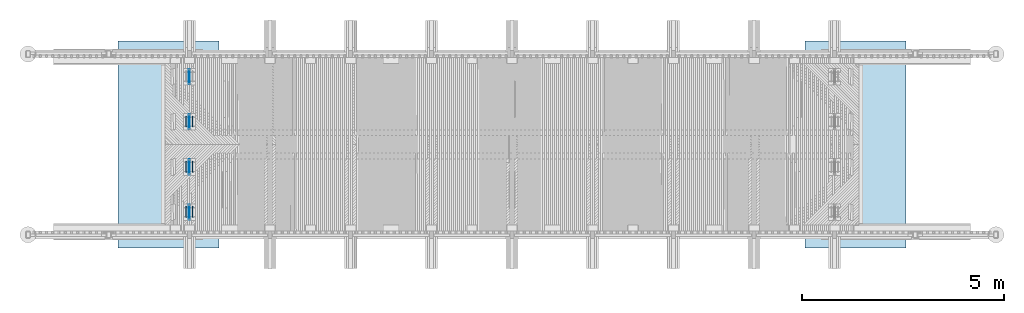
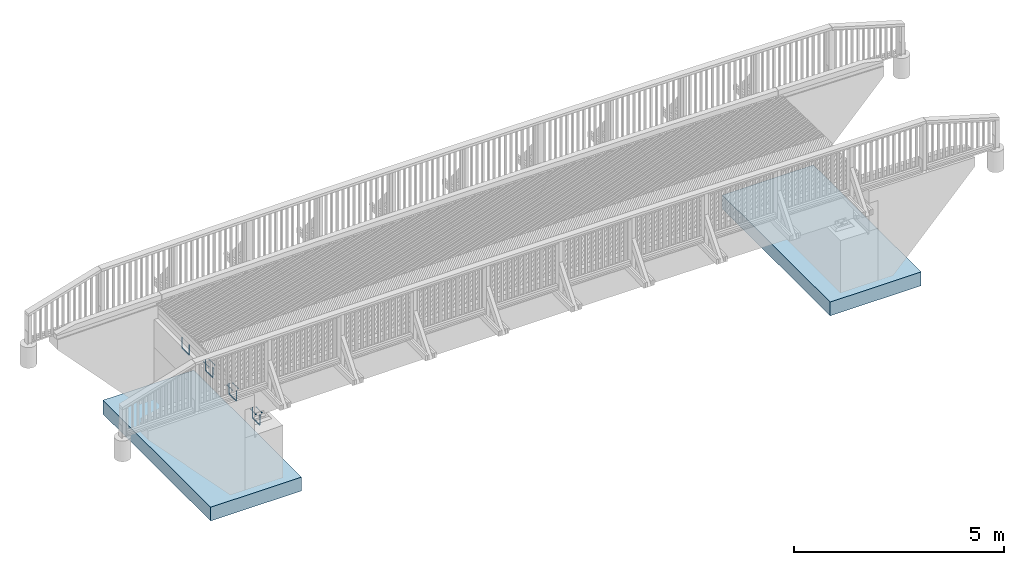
# One storey, part 1 of 53: 8 reinforcing bars, 3 mechanical fasteners, 2 slabs.
"""IFC2X3 building model written with IfcOpenShell, lengths in millimetres."""

from ifc_helpers import new_model, si_unit, frame, origin_with_axes, place, context, subcontext, project, spatial, faceted_brep, source, transform, mapped, material, type_object, element, save


model = new_model("IFC2X3")

# Units and contexts
model_context = context("Model", 3, precision=1e-05, world=origin_with_axes())
body_context = subcontext(model_context, "Body", "Model", "MODEL_VIEW")
ifc_project = project(units=[si_unit("LENGTHUNIT", "METRE", prefix="MILLI"), si_unit("AREAUNIT", "SQUARE_METRE"), si_unit("VOLUMEUNIT", "CUBIC_METRE"), si_unit("MASSUNIT", "GRAM", prefix="KILO"), si_unit("TIMEUNIT", "SECOND"), si_unit("PLANEANGLEUNIT", "RADIAN"), si_unit("SOLIDANGLEUNIT", "STERADIAN"), si_unit("THERMODYNAMICTEMPERATUREUNIT", "DEGREE_CELSIUS"), si_unit("LUMINOUSINTENSITYUNIT", "LUMEN")], contexts=[model_context])

# Site, building, storey
site_placement = place(None, origin_with_axes())
site = spatial("IfcSite", under=ifc_project, at=site_placement, Name="Undefined", CompositionType="ELEMENT")
building_placement = place(site_placement, origin_with_axes())
building = spatial("IfcBuilding", under=site, at=building_placement, Name="Undefined", CompositionType="ELEMENT")
storey_placement = place(building_placement, origin_with_axes())
storey = spatial("IfcBuildingStorey", under=building, at=storey_placement, Name="Undefined", CompositionType="ELEMENT", Elevation=0.0)

# Slabs
ifc_material_1 = material(Name="CONCRETE/Concrete_Undefined")
slab_type = type_object("IfcSlabType", Name="400*2500", PredefinedType="NOTDEFINED")
for number, where, z_axis, x_axis in (
    (1, (17765.0, 44930.0, 200.0), (-1.0, 0.0, 0.0), (0.0, -1.0, 0.0)),
    (2, (-1765.0, 44930.0, 200.0), (1.0, 0.0, 0.0), (0.0, -1.0, 0.0)),
):
    element("IfcSlab", number, at=place(storey_placement, frame(where, z_axis=z_axis, x_axis=x_axis)), inside=storey, type_object=slab_type, material=ifc_material_1, Name="PERUSLAATTA", ObjectType="400*2500", PredefinedType="FLOOR", context=body_context, shape_type="Brep", body=[
        faceted_brep([(0.0, -200.0, 0.0), (0.0, -200.0, 2500.0), (0.0, 200.0, 2500.0), (0.0, 200.0, 0.0), (5130.0, -200.0, 2500.0), (5130.0, 200.0, 2500.0), (5130.0, -200.0, 0.0), (5130.0, 200.0, 0.0)], [[[0, 1, 2, 3]], [[1, 4, 5, 2]], [[4, 6, 7, 5]], [[6, 0, 3, 7]], [[5, 7, 3, 2]], [[6, 4, 1, 0]]]),
    ])

# Reinforcing bars
ifc_material_2 = material(Name="A500HW")
shared_shape_1 = source(origin_with_axes(), body_context, "Body", "Brep", [
    faceted_brep([(9.95929214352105, -5.74999999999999, -1.31778448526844e-16), (9.95929214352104, 5.75000000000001, -1.31778448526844e-16), (-4.46864767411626e-15, 11.5, 5.31556664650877e-32), (-9.95929214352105, 5.75, 1.31778448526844e-16), (-9.95929214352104, -5.75, 1.31778448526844e-16), (0.0, -11.5, 0.0), (-9.95929214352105, -5.75, -268.5), (-3.5527136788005e-15, -11.5, -268.5), (-9.95929214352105, 5.75, -268.5), (-8.02136135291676e-15, 11.5, -268.5), (9.95929214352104, 5.75000000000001, -268.5), (9.95929214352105, -5.74999999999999, -268.5), (-4.40480021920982, -5.75, -289.229646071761), (4.22019978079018, -11.5, -284.25), (-4.40480021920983, 5.75, -289.229646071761), (4.22019978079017, 11.5, -284.25), (12.8451997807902, 5.75000000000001, -279.27035392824), (12.8451997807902, -5.74999999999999, -279.27035392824), (10.7703539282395, -5.75, -304.40480021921), (15.75, -11.5, -295.77980021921), (10.7703539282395, 5.75, -304.40480021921), (15.75, 11.5, -295.77980021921), (20.7296460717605, 5.75000000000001, -287.15480021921), (20.7296460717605, -5.74999999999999, -287.15480021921), (31.5, -5.75, -309.959292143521), (31.5, -11.5, -300.0), (31.5, 5.75, -309.959292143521), (31.5, 11.5, -300.0), (31.5, 5.75000000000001, -290.040707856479), (31.5, -5.74999999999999, -290.040707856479), (323.5, -5.75, -309.959292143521), (323.5, -11.5, -300.0), (323.5, 5.75, -309.959292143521), (323.5, 11.5, -300.0), (323.5, 5.75000000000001, -290.040707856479), (323.5, -5.74999999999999, -290.040707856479), (344.229646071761, -5.75, -304.40480021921), (339.25, -11.5, -295.77980021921), (344.229646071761, 5.75, -304.40480021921), (339.25, 11.5, -295.77980021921), (334.270353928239, 5.75000000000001, -287.15480021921), (334.270353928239, -5.74999999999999, -287.15480021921), (359.40480021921, -5.75, -289.229646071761), (350.77980021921, -11.5, -284.25), (359.40480021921, 5.75, -289.229646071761), (350.77980021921, 11.5, -284.25), (342.15480021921, 5.75000000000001, -279.27035392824), (342.15480021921, -5.74999999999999, -279.27035392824), (364.959292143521, -5.75, -268.5), (355.0, -11.5, -268.5), (364.959292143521, 5.75, -268.5), (355.0, 11.5, -268.5), (345.040707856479, 5.75000000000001, -268.5), (345.040707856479, -5.74999999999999, -268.5), (364.959292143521, -5.75, 0.0), (355.0, -11.5, 0.0), (364.959292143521, 5.75, 0.0), (355.0, 11.5, 0.0), (345.040707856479, 5.75000000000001, 0.0), (345.040707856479, -5.74999999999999, 0.0)], [[[0, 1, 2, 3, 4, 5]], [[5, 4, 6, 7]], [[4, 3, 8, 6]], [[3, 2, 9, 8]], [[2, 1, 10, 9]], [[1, 0, 11, 10]], [[0, 5, 7, 11]], [[7, 6, 12, 13]], [[6, 8, 14, 12]], [[8, 9, 15, 14]], [[9, 10, 16, 15]], [[10, 11, 17, 16]], [[11, 7, 13, 17]], [[13, 12, 18, 19]], [[12, 14, 20, 18]], [[14, 15, 21, 20]], [[15, 16, 22, 21]], [[16, 17, 23, 22]], [[17, 13, 19, 23]], [[19, 18, 24, 25]], [[18, 20, 26, 24]], [[20, 21, 27, 26]], [[21, 22, 28, 27]], [[22, 23, 29, 28]], [[23, 19, 25, 29]], [[25, 24, 30, 31]], [[24, 26, 32, 30]], [[26, 27, 33, 32]], [[27, 28, 34, 33]], [[28, 29, 35, 34]], [[29, 25, 31, 35]], [[31, 30, 36, 37]], [[30, 32, 38, 36]], [[32, 33, 39, 38]], [[33, 34, 40, 39]], [[34, 35, 41, 40]], [[35, 31, 37, 41]], [[37, 36, 42, 43]], [[36, 38, 44, 42]], [[38, 39, 45, 44]], [[39, 40, 46, 45]], [[40, 41, 47, 46]], [[41, 37, 43, 47]], [[43, 42, 48, 49]], [[42, 44, 50, 48]], [[44, 45, 51, 50]], [[45, 46, 52, 51]], [[46, 47, 53, 52]], [[47, 43, 49, 53]], [[49, 48, 54, 55]], [[48, 50, 56, 54]], [[50, 51, 57, 56]], [[51, 52, 58, 57]], [[52, 53, 59, 58]], [[53, 49, 55, 59]], [[55, 54, 56, 57, 58, 59]]]),
])
for number, where, z_axis, x_axis, name in (
    (3, (0.0, 43102.5000000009, 1637.32999999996), (0.0, 0.0, 1.0), (0.0, -1.0, 0.0), "REBAR"),
    (4, (0.0, 44222.5000000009, 1615.32999999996), (0.0, 0.0, 1.0), (0.0, -1.0, 0.0), "REBAR"),
    (5, (0.0, 41627.5, 1637.32999999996), (0.0, 0.0, 1.0), (0.0, 1.0, 0.0), "REBAR"),
    (6, (0.0, 40507.5, 1615.32999999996), (0.0, 0.0, 1.0), (0.0, 1.0, 0.0), "REBAR"),
    (7, (0.0, 40507.5, 1615.32999999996), (0.0, 0.0, 1.0), (0.0, 1.0, 0.0), "REBAR"),
    (8, (0.0, 41627.5, 1637.32999999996), (0.0, 0.0, 1.0), (0.0, 1.0, 0.0), "REBAR"),
    (9, (0.0, 44222.5000000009, 1615.32999999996), (0.0, 0.0, 1.0), (0.0, -1.0, 0.0), "REBAR"),
    (10, (0.0, 43102.5000000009, 1637.32999999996), (0.0, 0.0, 1.0), (0.0, -1.0, 0.0), "REBAR"),
):
    element("IfcReinforcingBar", number, at=place(storey_placement, frame(where, z_axis=z_axis, x_axis=x_axis)), inside=storey, material=ifc_material_2, Name=name, BarRole="NOTDEFINED", CrossSectionArea=0.0, NominalDiameter=23.0, context=body_context, shape_type="MappedRepresentation", body=[
        mapped(shared_shape_1, transform((0.0, 0.0, 420.0))),
    ])

# Mechanical fasteners
ifc_material_3 = material(Name="Undefined")
mechanical_fastener_type = type_object("IfcMechanicalFastenerType", Name="Bolt assembly")
shared_shape_2 = source(origin_with_axes(), body_context, "Body", "Brep", [
    faceted_brep([(17.3205080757, -238.7, 0.0), (8.66025403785, -238.7, 15.0000000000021), (-8.66025403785, -238.7, 15.0000000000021), (-17.3205080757, -238.7, 0.0), (-8.66025403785, -238.7, -15.0000000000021), (8.66025403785, -238.7, -15.0000000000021), (8.66025403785, -225.5, -15.0000000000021), (-8.66025403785, -225.5, -15.0000000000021), (-17.3205080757, -225.5, 0.0), (-8.66025403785, -225.5, 15.0000000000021), (8.66025403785, -225.5, 15.0000000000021), (17.3205080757, -225.5, 0.0), (10.0, -225.5, 0.0), (8.66025403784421, -225.5, 5.0000000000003), (4.9999999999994, -225.5, 8.66025403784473), (-1.03633598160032e-12, -225.5, 10.0), (-5.00000000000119, -225.5, 8.6602540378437), (-8.66025403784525, -225.5, 4.99999999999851), (-10.0, -225.5, -2.07267196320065e-12), (-8.66025403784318, -225.5, -5.00000000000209), (-4.99999999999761, -225.5, -8.66025403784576), (3.09790571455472e-12, -225.5, -10.0), (5.00000000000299, -225.5, -8.66025403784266), (8.66025403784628, -225.5, -4.99999999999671), (8.66025403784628, 44.5, -4.99999999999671), (5.00000000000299, 44.5, -8.66025403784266), (3.09790571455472e-12, 44.5, -10.0), (-4.99999999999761, 44.5, -8.66025403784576), (-8.66025403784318, 44.5, -5.00000000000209), (-10.0, 44.5, -2.07267196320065e-12), (-8.66025403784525, 44.5, 4.99999999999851), (-5.00000000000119, 44.5, 8.6602540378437), (-1.03633598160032e-12, 44.5, 10.0), (4.9999999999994, 44.5, 8.66025403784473), (8.66025403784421, 44.5, 5.0000000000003), (10.0, 44.5, 0.0), (18.5, -225.5, 0.0), (16.0214699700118, -225.5, 9.25000000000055), (9.2499999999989, -225.5, 16.0214699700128), (-1.9172215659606e-12, -225.5, 18.5), (-9.25000000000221, -225.5, 16.0214699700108), (-16.0214699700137, -225.5, 9.24999999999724), (-18.5, -225.5, -3.83444313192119e-12), (-16.0214699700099, -225.5, -9.25000000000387), (-9.24999999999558, -225.5, -16.0214699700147), (5.73112557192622e-12, -225.5, -18.5), (9.25000000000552, -225.5, -16.0214699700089), (16.0214699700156, -225.5, -9.24999999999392), (16.0214699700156, -222.5, -9.24999999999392), (9.25000000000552, -222.5, -16.0214699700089), (5.73112557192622e-12, -222.5, -18.5), (-9.24999999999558, -222.5, -16.0214699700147), (-16.0214699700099, -222.5, -9.25000000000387), (-18.5, -222.5, -3.83444313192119e-12), (-16.0214699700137, -222.5, 9.24999999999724), (-9.25000000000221, -222.5, 16.0214699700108), (-1.9172215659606e-12, -222.5, 18.5), (9.2499999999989, -222.5, 16.0214699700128), (16.0214699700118, -222.5, 9.25000000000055), (18.5, -222.5, 0.0), (18.5, 12.5, 0.0), (16.0214699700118, 12.5, 9.25000000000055), (9.2499999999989, 12.5, 16.0214699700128), (-1.9172215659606e-12, 12.5, 18.5), (-9.25000000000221, 12.5, 16.0214699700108), (-16.0214699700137, 12.5, 9.24999999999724), (-18.5, 12.5, -3.83444313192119e-12), (-16.0214699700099, 12.5, -9.25000000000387), (-9.24999999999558, 12.5, -16.0214699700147), (5.73112557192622e-12, 12.5, -18.5), (9.25000000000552, 12.5, -16.0214699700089), (16.0214699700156, 12.5, -9.24999999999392), (16.0214699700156, 15.5, -9.24999999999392), (9.25000000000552, 15.5, -16.0214699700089), (5.73112557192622e-12, 15.5, -18.5), (-9.24999999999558, 15.5, -16.0214699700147), (-16.0214699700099, 15.5, -9.25000000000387), (-18.5, 15.5, -3.83444313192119e-12), (-16.0214699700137, 15.5, 9.24999999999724), (-9.25000000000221, 15.5, 16.0214699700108), (-1.9172215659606e-12, 15.5, 18.5), (9.2499999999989, 15.5, 16.0214699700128), (16.0214699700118, 15.5, 9.25000000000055), (18.5, 15.5, 0.0), (17.3205080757, 15.5, 0.0), (8.66025403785, 15.5, 15.0000000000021), (-8.66025403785, 15.5, 15.0000000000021), (-17.3205080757, 15.5, 0.0), (-8.66025403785, 15.5, -15.0000000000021), (8.66025403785, 15.5, -15.0000000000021), (8.66025403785, 31.5, -15.0000000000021), (-8.66025403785, 31.5, -15.0000000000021), (-17.3205080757, 31.5, 0.0), (-8.66025403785, 31.5, 15.0000000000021), (8.66025403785, 31.5, 15.0000000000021), (17.3205080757, 31.5, 0.0)], [[[0, 1, 2, 3, 4, 5]], [[6, 7, 8, 9, 10, 11]], [[0, 11, 10, 1]], [[1, 10, 9, 2]], [[2, 9, 8, 3]], [[3, 8, 7, 4]], [[4, 7, 6, 5]], [[5, 6, 11, 0]], [[12, 13, 14, 15, 16, 17, 18, 19, 20, 21, 22, 23]], [[24, 25, 26, 27, 28, 29, 30, 31, 32, 33, 34, 35]], [[12, 35, 34, 13]], [[13, 34, 33, 14]], [[14, 33, 32, 15]], [[15, 32, 31, 16]], [[16, 31, 30, 17]], [[17, 30, 29, 18]], [[18, 29, 28, 19]], [[19, 28, 27, 20]], [[20, 27, 26, 21]], [[21, 26, 25, 22]], [[22, 25, 24, 23]], [[23, 24, 35, 12]], [[36, 37, 38, 39, 40, 41, 42, 43, 44, 45, 46, 47]], [[48, 49, 50, 51, 52, 53, 54, 55, 56, 57, 58, 59]], [[36, 59, 58, 37]], [[37, 58, 57, 38]], [[38, 57, 56, 39]], [[39, 56, 55, 40]], [[40, 55, 54, 41]], [[41, 54, 53, 42]], [[42, 53, 52, 43]], [[43, 52, 51, 44]], [[44, 51, 50, 45]], [[45, 50, 49, 46]], [[46, 49, 48, 47]], [[47, 48, 59, 36]], [[60, 61, 62, 63, 64, 65, 66, 67, 68, 69, 70, 71]], [[72, 73, 74, 75, 76, 77, 78, 79, 80, 81, 82, 83]], [[60, 83, 82, 61]], [[61, 82, 81, 62]], [[62, 81, 80, 63]], [[63, 80, 79, 64]], [[64, 79, 78, 65]], [[65, 78, 77, 66]], [[66, 77, 76, 67]], [[67, 76, 75, 68]], [[68, 75, 74, 69]], [[69, 74, 73, 70]], [[70, 73, 72, 71]], [[71, 72, 83, 60]], [[84, 85, 86, 87, 88, 89]], [[90, 91, 92, 93, 94, 95]], [[84, 95, 94, 85]], [[85, 94, 93, 86]], [[86, 93, 92, 87]], [[87, 92, 91, 88]], [[88, 91, 90, 89]], [[89, 90, 95, 84]]]),
    faceted_brep([(11.0, -222.4, 0.0), (9.52627944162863, -222.4, 5.50000000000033), (5.49999999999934, -222.4, 9.5262794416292), (-1.13996957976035e-12, -222.4, 11.0), (-5.50000000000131, -222.4, 9.52627944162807), (-9.52627944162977, -222.4, 5.49999999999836), (-11.0, -222.4, -2.27993915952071e-12), (-9.5262794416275, -222.4, -5.5000000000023), (-5.49999999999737, -222.4, -9.52627944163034), (3.40769628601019e-12, -222.4, -11.0), (5.50000000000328, -222.4, -9.52627944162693), (9.52627944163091, -222.4, -5.49999999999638), (9.52627944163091, -212.4, -5.49999999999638), (5.50000000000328, -212.4, -9.52627944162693), (3.40769628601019e-12, -212.4, -11.0), (-5.49999999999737, -212.4, -9.52627944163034), (-9.5262794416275, -212.4, -5.5000000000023), (-11.0, -212.4, -2.27993915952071e-12), (-9.52627944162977, -212.4, 5.49999999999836), (-5.50000000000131, -212.4, 9.52627944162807), (-1.13996957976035e-12, -212.4, 11.0), (5.49999999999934, -212.4, 9.5262794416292), (9.52627944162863, -212.4, 5.50000000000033), (11.0, -212.4, 0.0), (11.0, 2.4, 0.0), (9.52627944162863, 2.4, 5.50000000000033), (5.49999999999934, 2.4, 9.5262794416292), (-1.13996957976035e-12, 2.4, 11.0), (-5.50000000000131, 2.4, 9.52627944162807), (-9.52627944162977, 2.4, 5.49999999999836), (-11.0, 2.4, -2.27993915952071e-12), (-9.5262794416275, 2.4, -5.5000000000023), (-5.49999999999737, 2.4, -9.52627944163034), (3.40769628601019e-12, 2.4, -11.0), (5.50000000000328, 2.4, -9.52627944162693), (9.52627944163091, 2.4, -5.49999999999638), (9.52627944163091, 12.5, -5.49999999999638), (5.50000000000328, 12.5, -9.52627944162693), (3.40769628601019e-12, 12.5, -11.0), (-5.49999999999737, 12.5, -9.52627944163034), (-9.5262794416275, 12.5, -5.5000000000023), (-11.0, 12.5, -2.27993915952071e-12), (-9.52627944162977, 12.5, 5.49999999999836), (-5.50000000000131, 12.5, 9.52627944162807), (-1.13996957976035e-12, 12.5, 11.0), (5.49999999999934, 12.5, 9.5262794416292), (9.52627944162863, 12.5, 5.50000000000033), (11.0, 12.5, 0.0)], [[[0, 1, 2, 3, 4, 5, 6, 7, 8, 9, 10, 11]], [[12, 13, 14, 15, 16, 17, 18, 19, 20, 21, 22, 23]], [[0, 23, 22, 1]], [[1, 22, 21, 2]], [[2, 21, 20, 3]], [[3, 20, 19, 4]], [[4, 19, 18, 5]], [[5, 18, 17, 6]], [[6, 17, 16, 7]], [[7, 16, 15, 8]], [[8, 15, 14, 9]], [[9, 14, 13, 10]], [[10, 13, 12, 11]], [[11, 12, 23, 0]], [[24, 25, 26, 27, 28, 29, 30, 31, 32, 33, 34, 35]], [[36, 37, 38, 39, 40, 41, 42, 43, 44, 45, 46, 47]], [[24, 47, 46, 25]], [[25, 46, 45, 26]], [[26, 45, 44, 27]], [[27, 44, 43, 28]], [[28, 43, 42, 29]], [[29, 42, 41, 30]], [[30, 41, 40, 31]], [[31, 40, 39, 32]], [[32, 39, 38, 33]], [[33, 38, 37, 34]], [[34, 37, 36, 35]], [[35, 36, 47, 24]]]),
])
mechanical_fastener_placement = place(storey_placement, frame((-80.0, 43030.0000000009, 2067.33), z_axis=(0.0, 0.0, 1.0), x_axis=(1.0, 0.0, 0.0)))
element("IfcMechanicalFastener", 11, at=mechanical_fastener_placement, inside=storey, type_object=mechanical_fastener_type, material=ifc_material_3, Name="Bolt assembly", NominalDiameter=20.0, NominalLength=270.0, context=body_context, shape_type="MappedRepresentation", body=[
    mapped(shared_shape_2, transform((0.0, 0.0, 0.0))),
    mapped(shared_shape_2, transform((160.0, 0.0, 0.0))),
])
shared_shape_3 = source(origin_with_axes(), body_context, "Body", "Brep", [
    faceted_brep([(17.3205080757, -28.7, 0.0), (8.66025403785, -28.7, 15.0000000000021), (-8.66025403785, -28.7, 15.0000000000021), (-17.3205080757, -28.7, 0.0), (-8.66025403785, -28.7, -15.0000000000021), (8.66025403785, -28.7, -15.0000000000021), (8.66025403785, -15.5, -15.0000000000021), (-8.66025403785, -15.5, -15.0000000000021), (-17.3205080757, -15.5, 0.0), (-8.66025403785, -15.5, 15.0000000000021), (8.66025403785, -15.5, 15.0000000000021), (17.3205080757, -15.5, 0.0), (10.0, -15.5, 0.0), (8.66025403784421, -15.5, 5.0000000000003), (4.9999999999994, -15.5, 8.66025403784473), (-1.03633598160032e-12, -15.5, 10.0), (-5.00000000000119, -15.5, 8.6602540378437), (-8.66025403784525, -15.5, 4.99999999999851), (-10.0, -15.5, -2.07267196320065e-12), (-8.66025403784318, -15.5, -5.00000000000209), (-4.99999999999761, -15.5, -8.66025403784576), (3.09790571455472e-12, -15.5, -10.0), (5.00000000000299, -15.5, -8.66025403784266), (8.66025403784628, -15.5, -4.99999999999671), (8.66025403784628, 254.5, -4.99999999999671), (5.00000000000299, 254.5, -8.66025403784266), (3.09790571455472e-12, 254.5, -10.0), (-4.99999999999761, 254.5, -8.66025403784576), (-8.66025403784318, 254.5, -5.00000000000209), (-10.0, 254.5, -2.07267196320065e-12), (-8.66025403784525, 254.5, 4.99999999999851), (-5.00000000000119, 254.5, 8.6602540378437), (-1.03633598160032e-12, 254.5, 10.0), (4.9999999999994, 254.5, 8.66025403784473), (8.66025403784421, 254.5, 5.0000000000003), (10.0, 254.5, 0.0), (18.5, -15.5, 0.0), (16.0214699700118, -15.5, 9.25000000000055), (9.2499999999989, -15.5, 16.0214699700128), (-1.9172215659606e-12, -15.5, 18.5), (-9.25000000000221, -15.5, 16.0214699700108), (-16.0214699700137, -15.5, 9.24999999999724), (-18.5, -15.5, -3.83444313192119e-12), (-16.0214699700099, -15.5, -9.25000000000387), (-9.24999999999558, -15.5, -16.0214699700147), (5.73112557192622e-12, -15.5, -18.5), (9.25000000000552, -15.5, -16.0214699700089), (16.0214699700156, -15.5, -9.24999999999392), (16.0214699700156, -12.5, -9.24999999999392), (9.25000000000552, -12.5, -16.0214699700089), (5.73112557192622e-12, -12.5, -18.5), (-9.24999999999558, -12.5, -16.0214699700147), (-16.0214699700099, -12.5, -9.25000000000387), (-18.5, -12.5, -3.83444313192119e-12), (-16.0214699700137, -12.5, 9.24999999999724), (-9.25000000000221, -12.5, 16.0214699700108), (-1.9172215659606e-12, -12.5, 18.5), (9.2499999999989, -12.5, 16.0214699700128), (16.0214699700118, -12.5, 9.25000000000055), (18.5, -12.5, 0.0), (18.5, 222.5, 0.0), (16.0214699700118, 222.5, 9.25000000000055), (9.2499999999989, 222.5, 16.0214699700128), (-1.9172215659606e-12, 222.5, 18.5), (-9.25000000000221, 222.5, 16.0214699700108), (-16.0214699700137, 222.5, 9.24999999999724), (-18.5, 222.5, -3.83444313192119e-12), (-16.0214699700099, 222.5, -9.25000000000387), (-9.24999999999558, 222.5, -16.0214699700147), (5.73112557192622e-12, 222.5, -18.5), (9.25000000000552, 222.5, -16.0214699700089), (16.0214699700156, 222.5, -9.24999999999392), (16.0214699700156, 225.5, -9.24999999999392), (9.25000000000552, 225.5, -16.0214699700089), (5.73112557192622e-12, 225.5, -18.5), (-9.24999999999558, 225.5, -16.0214699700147), (-16.0214699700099, 225.5, -9.25000000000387), (-18.5, 225.5, -3.83444313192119e-12), (-16.0214699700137, 225.5, 9.24999999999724), (-9.25000000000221, 225.5, 16.0214699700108), (-1.9172215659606e-12, 225.5, 18.5), (9.2499999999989, 225.5, 16.0214699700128), (16.0214699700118, 225.5, 9.25000000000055), (18.5, 225.5, 0.0), (17.3205080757, 225.5, 0.0), (8.66025403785, 225.5, 15.0000000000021), (-8.66025403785, 225.5, 15.0000000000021), (-17.3205080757, 225.5, 0.0), (-8.66025403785, 225.5, -15.0000000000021), (8.66025403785, 225.5, -15.0000000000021), (8.66025403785, 241.5, -15.0000000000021), (-8.66025403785, 241.5, -15.0000000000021), (-17.3205080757, 241.5, 0.0), (-8.66025403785, 241.5, 15.0000000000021), (8.66025403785, 241.5, 15.0000000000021), (17.3205080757, 241.5, 0.0)], [[[0, 1, 2, 3, 4, 5]], [[6, 7, 8, 9, 10, 11]], [[0, 11, 10, 1]], [[1, 10, 9, 2]], [[2, 9, 8, 3]], [[3, 8, 7, 4]], [[4, 7, 6, 5]], [[5, 6, 11, 0]], [[12, 13, 14, 15, 16, 17, 18, 19, 20, 21, 22, 23]], [[24, 25, 26, 27, 28, 29, 30, 31, 32, 33, 34, 35]], [[12, 35, 34, 13]], [[13, 34, 33, 14]], [[14, 33, 32, 15]], [[15, 32, 31, 16]], [[16, 31, 30, 17]], [[17, 30, 29, 18]], [[18, 29, 28, 19]], [[19, 28, 27, 20]], [[20, 27, 26, 21]], [[21, 26, 25, 22]], [[22, 25, 24, 23]], [[23, 24, 35, 12]], [[36, 37, 38, 39, 40, 41, 42, 43, 44, 45, 46, 47]], [[48, 49, 50, 51, 52, 53, 54, 55, 56, 57, 58, 59]], [[36, 59, 58, 37]], [[37, 58, 57, 38]], [[38, 57, 56, 39]], [[39, 56, 55, 40]], [[40, 55, 54, 41]], [[41, 54, 53, 42]], [[42, 53, 52, 43]], [[43, 52, 51, 44]], [[44, 51, 50, 45]], [[45, 50, 49, 46]], [[46, 49, 48, 47]], [[47, 48, 59, 36]], [[60, 61, 62, 63, 64, 65, 66, 67, 68, 69, 70, 71]], [[72, 73, 74, 75, 76, 77, 78, 79, 80, 81, 82, 83]], [[60, 83, 82, 61]], [[61, 82, 81, 62]], [[62, 81, 80, 63]], [[63, 80, 79, 64]], [[64, 79, 78, 65]], [[65, 78, 77, 66]], [[66, 77, 76, 67]], [[67, 76, 75, 68]], [[68, 75, 74, 69]], [[69, 74, 73, 70]], [[70, 73, 72, 71]], [[71, 72, 83, 60]], [[84, 85, 86, 87, 88, 89]], [[90, 91, 92, 93, 94, 95]], [[84, 95, 94, 85]], [[85, 94, 93, 86]], [[86, 93, 92, 87]], [[87, 92, 91, 88]], [[88, 91, 90, 89]], [[89, 90, 95, 84]]]),
    faceted_brep([(11.0, -12.4, 0.0), (9.52627944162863, -12.4, 5.50000000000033), (5.49999999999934, -12.4, 9.5262794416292), (-1.13996957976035e-12, -12.4, 11.0), (-5.50000000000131, -12.4, 9.52627944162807), (-9.52627944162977, -12.4, 5.49999999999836), (-11.0, -12.4, -2.27993915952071e-12), (-9.5262794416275, -12.4, -5.5000000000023), (-5.49999999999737, -12.4, -9.52627944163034), (3.40769628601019e-12, -12.4, -11.0), (5.50000000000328, -12.4, -9.52627944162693), (9.52627944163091, -12.4, -5.49999999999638), (9.52627944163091, -2.4, -5.49999999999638), (5.50000000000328, -2.4, -9.52627944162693), (3.40769628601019e-12, -2.4, -11.0), (-5.49999999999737, -2.4, -9.52627944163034), (-9.5262794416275, -2.4, -5.5000000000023), (-11.0, -2.4, -2.27993915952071e-12), (-9.52627944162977, -2.4, 5.49999999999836), (-5.50000000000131, -2.4, 9.52627944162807), (-1.13996957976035e-12, -2.4, 11.0), (5.49999999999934, -2.4, 9.5262794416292), (9.52627944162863, -2.4, 5.50000000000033), (11.0, -2.4, 0.0), (11.0, 212.4, 0.0), (9.52627944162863, 212.4, 5.50000000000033), (5.49999999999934, 212.4, 9.5262794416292), (-1.13996957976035e-12, 212.4, 11.0), (-5.50000000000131, 212.4, 9.52627944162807), (-9.52627944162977, 212.4, 5.49999999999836), (-11.0, 212.4, -2.27993915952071e-12), (-9.5262794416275, 212.4, -5.5000000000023), (-5.49999999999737, 212.4, -9.52627944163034), (3.40769628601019e-12, 212.4, -11.0), (5.50000000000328, 212.4, -9.52627944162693), (9.52627944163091, 212.4, -5.49999999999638), (9.52627944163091, 222.5, -5.49999999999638), (5.50000000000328, 222.5, -9.52627944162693), (3.40769628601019e-12, 222.5, -11.0), (-5.49999999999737, 222.5, -9.52627944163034), (-9.5262794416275, 222.5, -5.5000000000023), (-11.0, 222.5, -2.27993915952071e-12), (-9.52627944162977, 222.5, 5.49999999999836), (-5.50000000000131, 222.5, 9.52627944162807), (-1.13996957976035e-12, 222.5, 11.0), (5.49999999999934, 222.5, 9.5262794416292), (9.52627944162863, 222.5, 5.50000000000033), (11.0, 222.5, 0.0)], [[[0, 1, 2, 3, 4, 5, 6, 7, 8, 9, 10, 11]], [[12, 13, 14, 15, 16, 17, 18, 19, 20, 21, 22, 23]], [[0, 23, 22, 1]], [[1, 22, 21, 2]], [[2, 21, 20, 3]], [[3, 20, 19, 4]], [[4, 19, 18, 5]], [[5, 18, 17, 6]], [[6, 17, 16, 7]], [[7, 16, 15, 8]], [[8, 15, 14, 9]], [[9, 14, 13, 10]], [[10, 13, 12, 11]], [[11, 12, 23, 0]], [[24, 25, 26, 27, 28, 29, 30, 31, 32, 33, 34, 35]], [[36, 37, 38, 39, 40, 41, 42, 43, 44, 45, 46, 47]], [[24, 47, 46, 25]], [[25, 46, 45, 26]], [[26, 45, 44, 27]], [[27, 44, 43, 28]], [[28, 43, 42, 29]], [[29, 42, 41, 30]], [[30, 41, 40, 31]], [[31, 40, 39, 32]], [[32, 39, 38, 33]], [[33, 38, 37, 34]], [[34, 37, 36, 35]], [[35, 36, 47, 24]]]),
])
for number, where, z_axis, x_axis, name in (
    (12, (-80.0, 41700.0, 2067.33), (0.0, 0.0, 1.0), (1.0, 0.0, 0.0), "Bolt assembly"),
    (13, (-80.0, 40580.0, 2045.33), (0.0, 0.0, 1.0), (1.0, 0.0, 0.0), "Bolt assembly"),
):
    element("IfcMechanicalFastener", number, at=place(storey_placement, frame(where, z_axis=z_axis, x_axis=x_axis)), inside=storey, type_object=mechanical_fastener_type, material=ifc_material_3, Name=name, NominalDiameter=20.0, NominalLength=270.0, context=body_context, shape_type="MappedRepresentation", body=[
        mapped(shared_shape_3, transform((0.0, 0.0, 0.0))),
        mapped(shared_shape_3, transform((160.0, 0.0, 0.0))),
    ])

save(model, "model.ifc")
